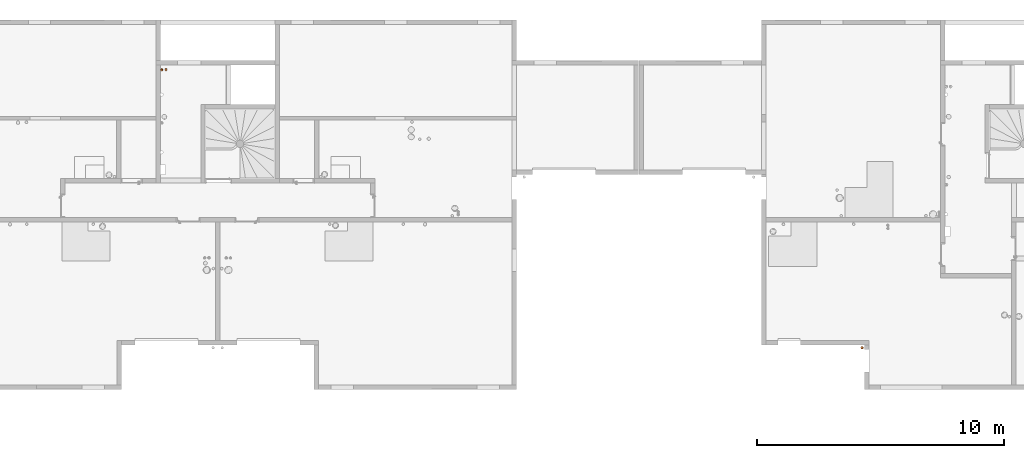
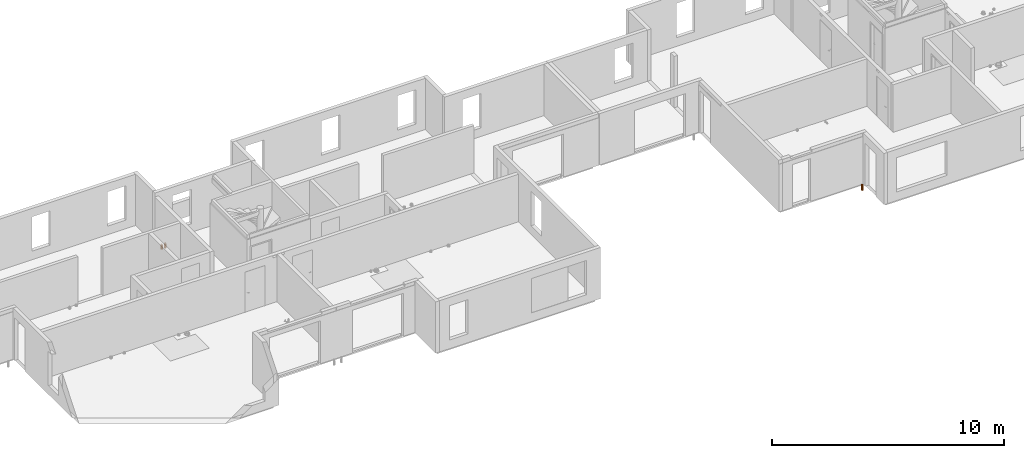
# One storey, part 27 of 30: 3 proxies.
"""IFC2X3 building model written with IfcOpenShell, lengths in centimetres."""

from ifc_helpers import new_model, entity, si_unit, converted_unit, derived_unit, direction, frame, frame_2d, origin, place, context, subcontext, project, spatial, circle, hollow_circle, extrude, source, transform, mapped, material, type_object, type_shapes, element, save


model = new_model("IFC2X3")

# Units and contexts
model_context = context("Model", 3, precision=0.001, world=origin(), true_north=direction((6.12303176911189e-17, 1.0)))
body_context = subcontext(model_context, "Body", "Model", "MODEL_VIEW")
ifc_project = project(units=[si_unit("LENGTHUNIT", "METRE", prefix="CENTI"), si_unit("AREAUNIT", "SQUARE_METRE"), si_unit("VOLUMEUNIT", "CUBIC_METRE"), converted_unit("PLANEANGLEUNIT", "DEGREE", entity("IfcRatioMeasure", 0.0174532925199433), si_unit("PLANEANGLEUNIT", "RADIAN"), dimensions=[0, 0, 0, 0, 0, 0, 0]), si_unit("MASSUNIT", "GRAM", prefix="KILO"), derived_unit("MASSDENSITYUNIT", [(si_unit("MASSUNIT", "GRAM", prefix="KILO"), 1), (si_unit("LENGTHUNIT", "METRE"), -3)]), si_unit("TIMEUNIT", "SECOND"), si_unit("FREQUENCYUNIT", "HERTZ"), si_unit("THERMODYNAMICTEMPERATUREUNIT", "DEGREE_CELSIUS"), derived_unit("THERMALTRANSMITTANCEUNIT", [(si_unit("MASSUNIT", "GRAM", prefix="KILO"), 1), (si_unit("THERMODYNAMICTEMPERATUREUNIT", "KELVIN"), -1), (si_unit("TIMEUNIT", "SECOND"), -3)]), derived_unit("VOLUMETRICFLOWRATEUNIT", [(si_unit("LENGTHUNIT", "METRE"), 3), (si_unit("TIMEUNIT", "SECOND"), -1)]), si_unit("ELECTRICCURRENTUNIT", "AMPERE"), si_unit("ELECTRICVOLTAGEUNIT", "VOLT"), si_unit("POWERUNIT", "WATT"), si_unit("FORCEUNIT", "NEWTON"), si_unit("ILLUMINANCEUNIT", "LUX"), si_unit("LUMINOUSFLUXUNIT", "LUMEN"), si_unit("LUMINOUSINTENSITYUNIT", "CANDELA"), derived_unit("USERDEFINED", [(si_unit("MASSUNIT", "GRAM", prefix="KILO"), -1), (si_unit("LENGTHUNIT", "METRE"), -2), (si_unit("TIMEUNIT", "SECOND"), 3), (si_unit("LUMINOUSFLUXUNIT", "LUMEN"), 1)]), derived_unit("LINEARVELOCITYUNIT", [(si_unit("LENGTHUNIT", "METRE"), 1), (si_unit("TIMEUNIT", "SECOND"), -1)]), si_unit("PRESSUREUNIT", "PASCAL"), derived_unit("USERDEFINED", [(si_unit("LENGTHUNIT", "METRE"), -2), (si_unit("MASSUNIT", "GRAM", prefix="KILO"), 1), (si_unit("TIMEUNIT", "SECOND"), -2)])], contexts=[model_context])

# Site, building, storey
site_placement = place(None, origin())
site = spatial("IfcSite", under=ifc_project, at=site_placement, Name="Default", CompositionType="ELEMENT")
building_placement = place(site_placement, origin())
building = spatial("IfcBuilding", under=site, at=building_placement, Name="CAGE 03", CompositionType="ELEMENT")
storey_placement = place(building_placement, frame((0.0, 0.0, 610.0)))
storey = spatial("IfcBuildingStorey", under=building, at=storey_placement, Name="R+2", CompositionType="ELEMENT", Elevation=610.0)

# Proxies
ifc_material_1 = material(Name="Conduit EP")
building_element_proxy_type_1 = type_object("IfcBuildingElementProxyType", Name="EP 101", PredefinedType="NOTDEFINED", material=ifc_material_1)
shared_shape_1 = source(origin(), body_context, "Body", "SweptSolid", [
    extrude(circle(Radius=5.5, at=frame_2d((0.0, -8.88549515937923e-15), x_axis=(1.0, 0.0))), frame((0.0, 0.0, -21.0)), (0.0, 0.0, 1.0), 21.0),
    extrude(hollow_circle(Radius=5.0, WallThickness=0.25, at=frame_2d((0.0, -8.07772287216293e-15), x_axis=(1.0, 0.0))), frame((0.0, 0.0, -21.0)), (0.0, 0.0, 1.0), 28.5),
])
type_shapes(building_element_proxy_type_1, [shared_shape_1])
proxy_1_placement = place(storey_placement, frame((9692.5930519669, 3965.66071816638, -4.46999646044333e-07)))
element("IfcBuildingElementProxy", 1, at=proxy_1_placement, inside=storey, type_object=building_element_proxy_type_1, material=ifc_material_1, Name="Galette - Résa - PVC1:EP 101", ObjectType="EP 101", context=body_context, shape_type="MappedRepresentation", body=[
    mapped(shared_shape_1, transform((0.0, 0.0, 0.0), scale=1.0)),
])
ifc_material_2 = material(Name="Circuit CHF Aller")
building_element_proxy_type_2 = type_object("IfcBuildingElementProxyType", Name="CHF Aller 41", PredefinedType="NOTDEFINED", material=ifc_material_2)
shared_shape_2 = source(origin(), body_context, "Body", "SweptSolid", [
    extrude(circle(Radius=5.0, at=frame_2d((0.0, -8.07772287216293e-15), x_axis=(1.0, 0.0))), frame((0.0, 0.0, -21.0)), (0.0, 0.0, 1.0), 21.0),
    extrude(hollow_circle(Radius=2.0, WallThickness=0.4, at=frame_2d((0.0, -3.23108914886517e-15), x_axis=(1.0, 0.0))), frame((0.0, 0.0, -21.0)), (0.0, 0.0, 1.0), 28.5),
])
type_shapes(building_element_proxy_type_2, [shared_shape_2])
proxy_2_placement = place(storey_placement, frame((6872.36582014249, 5092.3606660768, -4.46999646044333e-07)))
element("IfcBuildingElementProxy", 2, at=proxy_2_placement, inside=storey, type_object=building_element_proxy_type_2, material=ifc_material_2, Name="Galette - Résa - PVC1:CHF Aller 41", ObjectType="CHF Aller 41", context=body_context, shape_type="MappedRepresentation", body=[
    mapped(shared_shape_2, transform((0.0, 0.0, 0.0), scale=1.0)),
])
ifc_material_3 = material(Name="Circuit CHF Retour")
building_element_proxy_type_3 = type_object("IfcBuildingElementProxyType", Name="CHF Retour 43", PredefinedType="NOTDEFINED", material=ifc_material_3)
shared_shape_3 = source(origin(), body_context, "Body", "SweptSolid", [
    extrude(circle(Radius=5.0, at=frame_2d((0.0, -8.07772287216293e-15), x_axis=(1.0, 0.0))), frame((0.0, 0.0, -21.0)), (0.0, 0.0, 1.0), 21.0),
    extrude(hollow_circle(Radius=2.0, WallThickness=0.4, at=frame_2d((0.0, -3.23108914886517e-15), x_axis=(1.0, 0.0))), frame((0.0, 0.0, -21.0)), (0.0, 0.0, 1.0), 28.5),
])
type_shapes(building_element_proxy_type_3, [shared_shape_3])
proxy_3_placement = place(storey_placement, frame((6855.36582014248, 5092.3606660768, -4.46999646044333e-07)))
element("IfcBuildingElementProxy", 3, at=proxy_3_placement, inside=storey, type_object=building_element_proxy_type_3, material=ifc_material_3, Name="Galette - Résa - PVC1:CHF Retour 43", ObjectType="CHF Retour 43", context=body_context, shape_type="MappedRepresentation", body=[
    mapped(shared_shape_3, transform((0.0, 0.0, 0.0), scale=1.0)),
])

save(model, "model.ifc")
